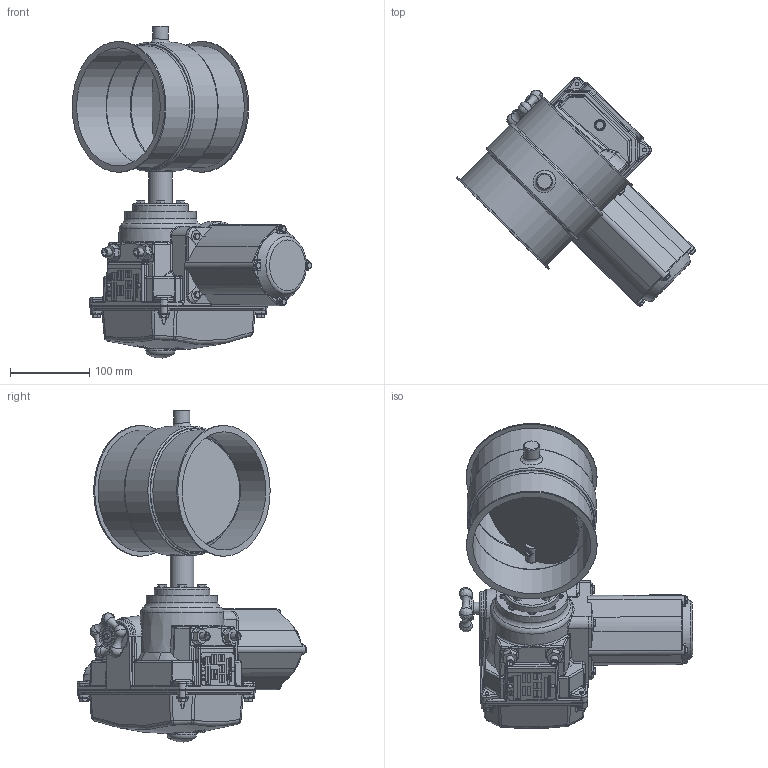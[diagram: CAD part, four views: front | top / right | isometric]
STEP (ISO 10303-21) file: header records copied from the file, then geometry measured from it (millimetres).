
FILE_DESCRIPTION((''),'2;1');
FILE_NAME('U:\Wolfgang\Marcel-3D\fertig\Kapitel 8\1521216.stp','2011-05-03T15:02:04',('TK1'),(''),'Autodesk Inventor 2010','Autodesk Inventor 2010','');
FILE_SCHEMA(('AUTOMOTIVE_DESIGN { 1 0 10303 214 1 1 1 1 }'));
Length unit declared in the file: millimetre
Products named in the file (9): 1521216; Bolzen D15; Scheibe150b; DIN 6912 M6 x 16; 1521210-1; D15 Antrieb Le-4; BuchseD15 70-50; DIN EN ISO 4018 M6x25; LEB45cc
Assembly tree (13 placements, depth 3):
  1521216
    Bolzen D15  x2
    Scheibe150b
    DIN 6912 M6 x 16  x2
    1521210-1
    D15 Antrieb Le-4
      BuchseD15 70-50
      DIN EN ISO 4018 M6x25  x4
      LEB45cc
Bounding box: 302.32 x 290.1 x 418.82 mm (x, y, z)
Volume: 4392524.9 mm3; surface area: 499241 mm2
Topology: 12 solids, 12 shells, 1496 faces, 3757 edges, 2356 vertices
Faces by surface type: plane 752, cylinder 291, bspline 241, torus 86, cone 81, sphere 45
Full cylindrical faces by diameter (mm): 3 x2, 5 x4, 5.1 x8, 6 x14, 6.9 x8, 10 x6, 15 x7, 15.5 x1, 16 x1, 17 x1, 18.6 x2, 20 x1, 24 x1, 30 x2, 35 x1, 42 x1, 70 x1, 149 x3, 150 x1, 153 x2, 158 x1, 159 x1, 163 x1, 165 x2
Entity records: 51810 total; most frequent: CARTESIAN_POINT 19467, ORIENTED_EDGE 6644, DIRECTION 5840, EDGE_CURVE 3322, VERTEX_POINT 2193, AXIS2_PLACEMENT_3D 2060, VECTOR 1720, LINE 1720
